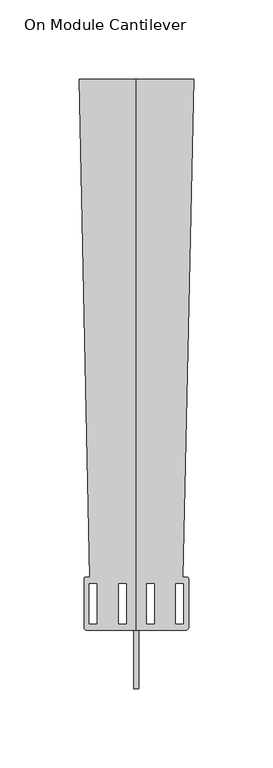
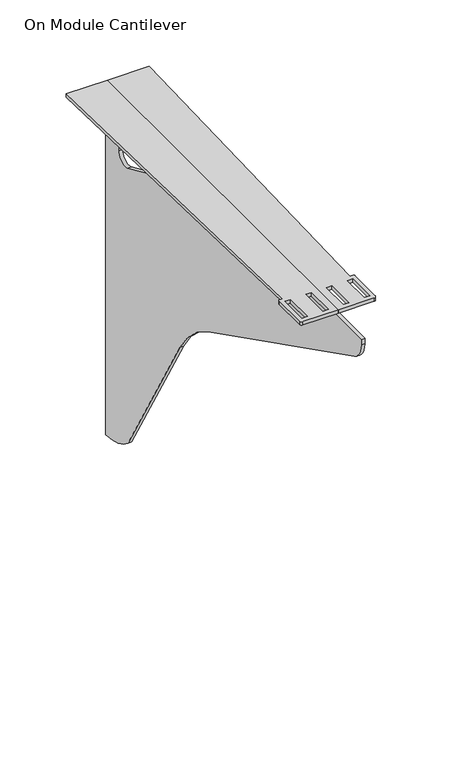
"""IFC4 building model written with IfcOpenShell, lengths in millimetres: furniture geometry, Steelcase - Montage - Panel Mounted Universal Support - Cantilever - On Module : On Module Cantilever."""

import ifcopenshell
import ifcopenshell.guid

model = None  # the IFC model being written
_history = None  # IfcOwnerHistory: only IFC2X3 demands one
_inside = {}  # id of a spatial element -> (the spatial element, [elements in it])
_under = {}  # id of a project, library or spatial element -> (it, [spatial elements below it])
_declared = {}  # id of a project -> (the project, [libraries it declares])
_typed = {}  # id of a type object -> (the type object, [elements of that type])
_made_of = {}  # id of a material, layer set ... -> (it, [elements and type objects made of it])


def new_model(schema):
    """Start an empty IFC model of exactly this schema.

    Asked for "IFC4X3", IfcOpenShell would pick the latest addendum, in which some entities
    have other attributes; the version numbers below select the first issue.
    IFC2X3 requires an IfcOwnerHistory on every rooted entity: one is made here for all.
    """
    global model, _history
    if schema == "IFC4X3":
        model = ifcopenshell.file(schema_version=(4, 3, 0, 0))
    else:
        model = ifcopenshell.file(schema=schema)
    _inside.clear()
    _under.clear()
    _declared.clear()
    _typed.clear()
    _made_of.clear()
    _history = None
    if model.schema == "IFC2X3":
        org = make("IfcOrganization", Name="unknown")
        user = make(
            "IfcPersonAndOrganization",
            ThePerson=make("IfcPerson", FamilyName="unknown"),
            TheOrganization=org,
        )
        app = make(
            "IfcApplication",
            ApplicationDeveloper=org,
            Version="unknown",
            ApplicationFullName="unknown",
            ApplicationIdentifier="unknown",
        )
        _history = make(
            "IfcOwnerHistory",
            OwningUser=user,
            OwningApplication=app,
            ChangeAction="ADDED",
            CreationDate=0,
        )
    return model


def make(cls, **values):
    """One entity of the class cls with the attributes given. An attribute that is None is left unset."""
    return model.create_entity(
        cls, **{name: value for name, value in values.items() if value is not None}
    )


def rooted(cls, **values):
    """An entity with a GlobalId (a new one), such as an element, a storey or a relation."""
    return make(cls, GlobalId=ifcopenshell.guid.new(), OwnerHistory=_history, **values)


def si_unit(unit_type, name, prefix=None):
    """IfcSIUnit, for example si_unit("LENGTHUNIT", "METRE", prefix="MILLI")."""
    return make("IfcSIUnit", UnitType=unit_type, Prefix=prefix, Name=name)


def assignment(units):
    """IfcUnitAssignment: the units of a project."""
    return None if units is None else make("IfcUnitAssignment", Units=units)


def point(xyz):
    """IfcCartesianPoint."""
    return None if xyz is None else make("IfcCartesianPoint", Coordinates=xyz)


def direction(xyz):
    """IfcDirection."""
    return None if xyz is None else make("IfcDirection", DirectionRatios=xyz)


def frame(location, z_axis=None, x_axis=None):
    """IfcAxis2Placement3D, a coordinate frame: its origin and axes. An axis left out is left unset."""
    return make(
        "IfcAxis2Placement3D",
        Location=point(location),
        Axis=direction(z_axis),
        RefDirection=direction(x_axis),
    )


def frame_2d(location, x_axis=None):
    """IfcAxis2Placement2D, a coordinate frame in the plane: its origin and x axis."""
    return make(
        "IfcAxis2Placement2D", Location=point(location), RefDirection=direction(x_axis)
    )


def origin():
    """The frame at (0, 0, 0) with its axes left unset."""
    return frame((0.0, 0.0, 0.0))


def place(relative_to, where):
    """IfcLocalPlacement: puts the frame where relative to a parent placement (None: the world)."""
    return make(
        "IfcLocalPlacement", PlacementRelTo=relative_to, RelativePlacement=where
    )


def context(
    kind, dimensions, precision=None, world=None, true_north=None, identifier=None
):
    """IfcGeometricRepresentationContext, for example the 3D "Model" context."""
    return make(
        "IfcGeometricRepresentationContext",
        ContextIdentifier=identifier,
        ContextType=kind,
        CoordinateSpaceDimension=dimensions,
        Precision=precision,
        WorldCoordinateSystem=world,
        TrueNorth=true_north,
    )


def project(units=None, contexts=None):
    """IfcProject with its units and contexts."""
    return rooted(
        "IfcProject",
        Name="project",
        RepresentationContexts=contexts,
        UnitsInContext=assignment(units),
    )


def spatial(cls, under=None, at=None, **own):
    """A site, building, storey or space (cls), placed at a placement, below another one or the project."""
    s = rooted(cls, ObjectPlacement=at, **own)
    if under is not None:
        _under.setdefault(under.id(), (under, []))[1].append(s)
    return s


def polyline(points):
    """IfcPolyline through the points."""
    return make("IfcPolyline", Points=[point(p) for p in points])


def circle_curve(where, radius):
    """IfcCircle in the frame where."""
    return make("IfcCircle", Position=where, Radius=radius)


def trimmed(basis, trim1, trim2, sense, master):
    """IfcTrimmedCurve: the piece of a basis curve between two trims."""
    return make(
        "IfcTrimmedCurve",
        BasisCurve=basis,
        Trim1=trim1,
        Trim2=trim2,
        SenseAgreement=sense,
        MasterRepresentation=master,
    )


def segment(curve, same_sense, transition):
    """IfcCompositeCurveSegment."""
    return make(
        "IfcCompositeCurveSegment",
        Transition=transition,
        SameSense=same_sense,
        ParentCurve=curve,
    )


def composite_curve(segments, self_intersect=None):
    """IfcCompositeCurve: segments joined end to end."""
    return make("IfcCompositeCurve", Segments=segments, SelfIntersect=self_intersect)


def outline(outer, holes=None, kind="AREA"):
    """IfcArbitraryClosedProfileDef: a profile drawn as a closed curve; with holes, ...WithVoids."""
    if holes is None:
        return make("IfcArbitraryClosedProfileDef", ProfileType=kind, OuterCurve=outer)
    return make(
        "IfcArbitraryProfileDefWithVoids",
        ProfileType=kind,
        OuterCurve=outer,
        InnerCurves=holes,
    )


def extrude(swept, where, along, depth):
    """IfcExtrudedAreaSolid: the profile swept, set in the frame where, extruded along a direction by depth."""
    return make(
        "IfcExtrudedAreaSolid",
        SweptArea=swept,
        Position=where,
        ExtrudedDirection=direction(along),
        Depth=depth,
    )


def shape(context_of_items, identifier, shape_type, items):
    """IfcShapeRepresentation: the items that make up one representation, for example the "Body"."""
    return make(
        "IfcShapeRepresentation",
        ContextOfItems=context_of_items,
        RepresentationIdentifier=identifier,
        RepresentationType=shape_type,
        Items=items,
    )


def source(mapping_origin, context_of_items, identifier, shape_type, items):
    """IfcRepresentationMap: a shape defined once, which mapped items show again and again."""
    return make(
        "IfcRepresentationMap",
        MappingOrigin=mapping_origin,
        MappedRepresentation=shape(context_of_items, identifier, shape_type, items),
    )


def transform(
    local_origin,
    x_axis=None,
    y_axis=None,
    z_axis=None,
    scale=None,
    scale2=None,
    scale3=None,
    uniform=True,
):
    """IfcCartesianTransformationOperator3D, or its non-uniform kind. x_axis, y_axis, z_axis: its Axis1, 2, 3."""
    if uniform:
        return make(
            "IfcCartesianTransformationOperator3D",
            Axis1=direction(x_axis),
            Axis2=direction(y_axis),
            LocalOrigin=point(local_origin),
            Scale=scale,
            Axis3=direction(z_axis),
        )
    return make(
        "IfcCartesianTransformationOperator3DnonUniform",
        Axis1=direction(x_axis),
        Axis2=direction(y_axis),
        LocalOrigin=point(local_origin),
        Scale=scale,
        Axis3=direction(z_axis),
        Scale2=scale2,
        Scale3=scale3,
    )


def mapped(mapping_source, mapping_target):
    """IfcMappedItem: shows the shape of a source again, moved by a transform."""
    return make(
        "IfcMappedItem", MappingSource=mapping_source, MappingTarget=mapping_target
    )


def made_of(thing, what):
    """Note that an element or type object is made of a material, layer set ...; save() writes the relation."""
    if what is not None:
        _made_of.setdefault(what.id(), (what, []))[1].append(thing)
    return thing


def element(
    cls,
    number,
    at=None,
    inside=None,
    cuts=None,
    type_object=None,
    material=None,
    context=None,
    identifier="Body",
    shape_type=None,
    held_by="IfcProductDefinitionShape",
    body=None,
    shapes=None,
    **own,
):
    """One element of the class cls, such as IfcWall. Its Tag is "e" and its number.

    at: its placement. inside: the storey or other place that contains it. cuts: it is an
    opening in that element (IfcRelVoidsElement). A single representation is given by context,
    identifier, shape_type and body (its items); several are given by shapes. held_by: the class
    of the entity that holds the representations. save() writes the other relations.
    """
    e = rooted(cls, Tag="e%d" % number, ObjectPlacement=at, **own)
    if body is not None:
        shapes = [shape(context, identifier, shape_type, body)]
    if shapes is not None:
        e.Representation = make(held_by, Representations=shapes)
    if inside is not None:
        _inside.setdefault(inside.id(), (inside, []))[1].append(e)
    if cuts is not None:
        rooted(
            "IfcRelVoidsElement", RelatingBuildingElement=cuts, RelatedOpeningElement=e
        )
    if type_object is not None:
        _typed.setdefault(type_object.id(), (type_object, []))[1].append(e)
    return made_of(e, material)


def aggregate(whole, parts):
    """IfcRelAggregates: a whole, such as a stair, and the parts it consists of."""
    return rooted("IfcRelAggregates", RelatingObject=whole, RelatedObjects=parts)


def save(model, path):
    """Write the relations noted so far, then the file.

    IfcRelAggregates (storeys below a building ...), IfcRelContainedInSpatialStructure (elements
    in a storey), IfcRelDefinesByType, IfcRelAssociatesMaterial and IfcRelDeclares: one each for
    every whole, place, type object, material and project.
    """
    for whole, parts in _under.values():
        aggregate(whole, parts)
    for where, things in _inside.values():
        rooted(
            "IfcRelContainedInSpatialStructure",
            RelatedElements=things,
            RelatingStructure=where,
        )
    for kind, things in _typed.values():
        rooted("IfcRelDefinesByType", RelatedObjects=things, RelatingType=kind)
    for what, things in _made_of.values():
        rooted("IfcRelAssociatesMaterial", RelatedObjects=things, RelatingMaterial=what)
    for by, libraries in _declared.values():
        rooted("IfcRelDeclares", RelatingContext=by, RelatedDefinitions=libraries)
    model.write(path)


def on_module_cantilever_b85a96c2(model_context):
    return source(origin(), model_context, "Body", "SweptSolid", [
        extrude(outline(composite_curve([segment(polyline([(0.0, 0.0), (36.3221938, 0.0), (29.4641938, -314.706), (31.9673877, -314.706)]), True, "CONTINUOUS"), segment(trimmed(circle_curve(frame_2d((31.9673877, -315.885806)), 1.179806), [point((31.9673877, -314.706))], [point((33.1471938, -315.885806))], False, "CARTESIAN"), True, "CONTINUOUS"), segment(polyline([(33.1471938, -315.885806), (33.1471938, -346.1973532)]), True, "CONTINUOUS"), segment(trimmed(circle_curve(frame_2d((30.8565469, -346.1973532)), 2.2906468), [point((33.1471938, -346.1973532))], [point((30.8565469, -348.488))], False, "CARTESIAN"), True, "CONTINUOUS"), segment(polyline([(30.8565469, -348.488), (0.0, -348.488), (0.0, 0.0)]), True, "CONTINUOUS")], self_intersect=False), holes=[polyline([(11.4047938, -318.897), (6.6295938, -318.897), (6.6295938, -344.297), (11.4047938, -344.297), (11.4047938, -318.897)]), polyline([(29.8197938, -318.897), (25.0445938, -318.897), (25.0445938, -344.297), (29.8197938, -344.297), (29.8197938, -318.897)])]), frame((0.0, 0.0, 690.6147928), z_axis=(0.0, 0.0, 1.0), x_axis=(1.0, 0.0, 0.0)), (0.0, 0.0, 1.0), 3.1227314),
        extrude(outline(composite_curve([segment(polyline([(0.0, -348.488), (-30.8608062, -348.488)]), True, "CONTINUOUS"), segment(trimmed(circle_curve(frame_2d((-30.8608062, -346.456)), 2.032), [point((-30.8608062, -348.488))], [point((-32.8928062, -346.456))], False, "CARTESIAN"), True, "CONTINUOUS"), segment(polyline([(-32.8928062, -346.456), (-32.8928062, -315.9068949)]), True, "CONTINUOUS"), segment(trimmed(circle_curve(frame_2d((-31.6919113, -315.9068949)), 1.2008949), [point((-32.8928062, -315.9068949))], [point((-31.6919113, -314.706))], False, "CARTESIAN"), True, "CONTINUOUS"), segment(polyline([(-31.6919113, -314.706), (-29.2098062, -314.706), (-36.0678062, 0.0), (0.0, 0.0), (0.0, -348.488)]), True, "CONTINUOUS")], self_intersect=False), holes=[polyline([(-24.7902062, -318.897), (-29.5654062, -318.897), (-29.5654062, -344.297), (-24.7902062, -344.297), (-24.7902062, -318.897)]), polyline([(-6.3752062, -318.897), (-11.1504062, -318.897), (-11.1504062, -344.297), (-6.3752062, -344.297), (-6.3752062, -318.897)])]), frame((0.0, 0.0, 690.6147928), z_axis=(0.0, 0.0, 1.0), x_axis=(1.0, 0.0, 0.0)), (0.0, 0.0, 1.0), 3.1227314),
        extrude(outline(composite_curve([segment(polyline([(0.0, 689.152775), (0.0, 367.9598803)]), True, "CONTINUOUS"), segment(trimmed(circle_curve(frame_2d((-0.4004071, 417.9748021)), 50.0165246), [point((0.0, 367.9598803))], [point((-33.8708999, 380.8078969))], False, "CARTESIAN"), True, "CONTINUOUS"), segment(polyline([(-33.8708999, 380.8078969), (-111.9759105, 516.0897447)]), True, "CONTINUOUS"), segment(trimmed(circle_curve(frame_2d((-200.3600148, 465.0611588)), 102.0571726), [point((-111.9759105, 516.0897447))], [point((-154.4220059, 556.1949386))], True, "CARTESIAN"), True, "CONTINUOUS"), segment(polyline([(-154.4220059, 556.1949386), (-374.8681626, 667.3157273)]), True, "CONTINUOUS"), segment(trimmed(circle_curve(frame_2d((-366.2933359, 684.3268341)), 19.0500763), [point((-374.8681626, 667.3157273))], [point((-385.3434122, 684.3268341))], False, "CARTESIAN"), True, "CONTINUOUS"), segment(polyline([(-385.3434122, 684.3268341), (-385.3434122, 689.152775), (0.0, 689.152775)]), True, "CONTINUOUS")], self_intersect=False), holes=[composite_curve([segment(polyline([(-9.7789998, 677.4688225), (-87.2489985, 677.4688225)]), True, "CONTINUOUS"), segment(trimmed(circle_curve(frame_2d((-87.2489985, 667.9437963)), 9.5250262), [point((-87.2489985, 677.4688225))], [point((-91.1231735, 659.242251))], True, "CARTESIAN"), True, "CONTINUOUS"), segment(polyline([(-91.1231735, 659.242251), (-33.0860391, 633.4024715)]), True, "CONTINUOUS"), segment(trimmed(circle_curve(frame_2d((-29.211875, 642.1039925)), 9.5249995), [point((-33.0860391, 633.4024715))], [point((-19.7103998, 641.4349754))], True, "CARTESIAN"), True, "CONTINUOUS"), segment(polyline([(-19.7103998, 641.4349754), (-19.7103998, 655.2438221)]), True, "CONTINUOUS"), segment(trimmed(circle_curve(frame_2d((-16.5353994, 655.2438221)), 3.1750004), [point((-19.7103998, 655.2438221))], [point((-16.5353994, 658.4188225))], False, "CARTESIAN"), True, "CONTINUOUS"), segment(polyline([(-16.5353994, 658.4188225), (-9.7789998, 658.4188225), (-9.7789998, 677.4688225)]), True, "CONTINUOUS")], self_intersect=False)]), frame((-1.524, 0.0, 0.0), z_axis=(1.0, 0.0, 0.0), x_axis=(0.0, 1.0, 0.0)), (0.0, 0.0, 1.0), 3.048),
    ])


if __name__ == "__main__":
    model = new_model("IFC4")
    model_context = context("Model", 3, world=origin())
    ifc_project = project(units=[si_unit("LENGTHUNIT", "METRE", prefix="MILLI")], contexts=[model_context])
    site = spatial("IfcSite", under=ifc_project)
    building = spatial("IfcBuilding", under=site)
    placement = place(None, origin())
    on_module_cantilever_shape = on_module_cantilever_b85a96c2(model_context)
    element("IfcFurniture", 1, ObjectType="Steelcase - Montage - Panel Mounted Universal Support - Cantilever - On Module : On Module Cantilever", at=placement, inside=building, context=model_context, shape_type="MappedRepresentation", body=[
        mapped(on_module_cantilever_shape, transform((0.0, 0.0, 0.0), x_axis=(1.0, 0.0, 0.0), y_axis=(0.0, 1.0, 0.0), z_axis=(0.0, 0.0, 1.0))),
    ])
    save(model, "model.ifc")
